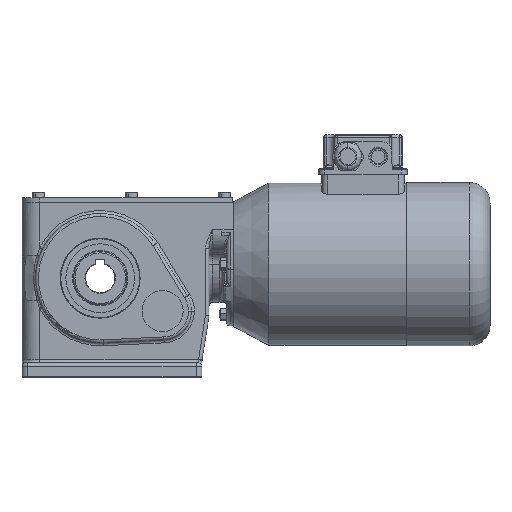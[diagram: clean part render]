
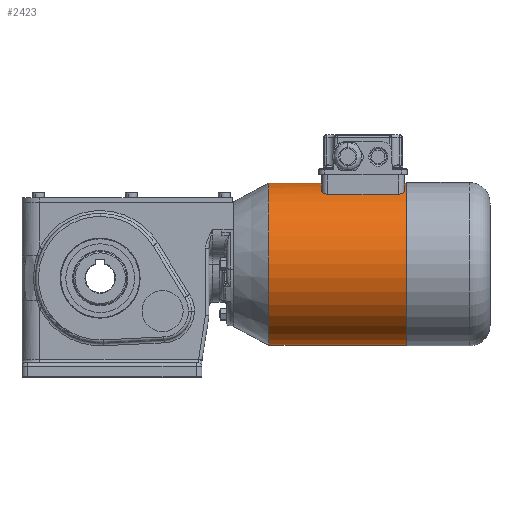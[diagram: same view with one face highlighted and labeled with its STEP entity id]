
A CAD part, top view. The second image highlights one B-rep face of the part: STEP entity #2423.
In plain terms, the highlighted cylindrical face has radius 69 mm (diameter 138 mm), a partial arc.
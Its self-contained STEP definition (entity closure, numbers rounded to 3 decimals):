
#5 = AXIS2_PLACEMENT_3D ( 'NONE', #32197, #26768, #32021 ) ;
#8 = CARTESIAN_POINT ( 'NONE',  ( 0., -35., -59.464 ) ) ;
#156 = VECTOR ( 'NONE', #26555, 1000. ) ;
#657 = EDGE_CURVE ( 'NONE', #6835, #13771, #28939, .T. ) ;
#1021 = CIRCLE ( 'NONE', #15489, 69. ) ;
#1559 = CARTESIAN_POINT ( 'NONE',  ( 74.592, -33.673, -60.226 ) ) ;
#1884 = CARTESIAN_POINT ( 'NONE',  ( 73.918, -32.96, -60.621 ) ) ;
#2423 = ADVANCED_FACE ( 'NONE', ( #9245 ), #9080, .T. ) ;
#2482 = VECTOR ( 'NONE', #25142, 1000. ) ;
#2698 = VERTEX_POINT ( 'NONE', #28377 ) ;
#2816 = CARTESIAN_POINT ( 'NONE',  ( 78., -35., -59.464 ) ) ;
#3409 = ORIENTED_EDGE ( 'NONE', *, *, #20970, .T. ) ;
#4070 = CARTESIAN_POINT ( 'NONE',  ( 78., -35., -59.464 ) ) ;
#4138 = CARTESIAN_POINT ( 'NONE',  ( 73., 0., 0. ) ) ;
#4510 = CARTESIAN_POINT ( 'NONE',  ( 0., 0., 69. ) ) ;
#4675 = DIRECTION ( 'NONE',  ( -1., 0., 0. ) ) ;
#5617 = AXIS2_PLACEMENT_3D ( 'NONE', #9871, #4675, #25308 ) ;
#5909 = CARTESIAN_POINT ( 'NONE',  ( 0., 0., -69. ) ) ;
#6417 = CARTESIAN_POINT ( 'NONE',  ( 75.824, -34.505, -59.753 ) ) ;
#6588 = CARTESIAN_POINT ( 'NONE',  ( 76.619, -34.818, -59.571 ) ) ;
#6674 = ORIENTED_EDGE ( 'NONE', *, *, #22637, .F. ) ;
#6732 = CARTESIAN_POINT ( 'NONE',  ( 142.853, -31.245, -61.521 ) ) ;
#6760 = CARTESIAN_POINT ( 'NONE',  ( 75.38, -34.262, -59.893 ) ) ;
#6835 = VERTEX_POINT ( 'NONE', #23668 ) ;
#7048 = CARTESIAN_POINT ( 'NONE',  ( 142.97, -30.628, -61.831 ) ) ;
#7070 = VERTEX_POINT ( 'NONE', #2816 ) ;
#7203 = ORIENTED_EDGE ( 'NONE', *, *, #31619, .F. ) ;
#7231 = DIRECTION ( 'NONE',  ( 1., 0., 0. ) ) ;
#7690 = AXIS2_PLACEMENT_3D ( 'NONE', #4138, #19106, #22097 ) ;
#7735 = VERTEX_POINT ( 'NONE', #29484 ) ;
#7864 = VERTEX_POINT ( 'NONE', #15629 ) ;
#8909 = CARTESIAN_POINT ( 'NONE',  ( 139.375, -34.819, -59.57 ) ) ;
#9080 = CYLINDRICAL_SURFACE ( 'NONE', #24358, 69. ) ;
#9245 = FACE_OUTER_BOUND ( 'NONE', #18223, .T. ) ;
#9402 = CARTESIAN_POINT ( 'NONE',  ( 138.7, -34.963, -59.486 ) ) ;
#9871 = CARTESIAN_POINT ( 'NONE',  ( 71., 0., 0. ) ) ;
#10466 = ORIENTED_EDGE ( 'NONE', *, *, #29811, .T. ) ;
#11953 = CARTESIAN_POINT ( 'NONE',  ( 77.646, -35., -59.464 ) ) ;
#12064 = LINE ( 'NONE', #4510, #2482 ) ;
#12977 = VERTEX_POINT ( 'NONE', #13854 ) ;
#13570 = CARTESIAN_POINT ( 'NONE',  ( 71., 0., -69. ) ) ;
#13771 = VERTEX_POINT ( 'NONE', #13570 ) ;
#13854 = CARTESIAN_POINT ( 'NONE',  ( 73., -30., -62.137 ) ) ;
#14152 = CARTESIAN_POINT ( 'NONE',  ( 73., -30.634, -61.831 ) ) ;
#14290 = CARTESIAN_POINT ( 'NONE',  ( 141.16, -33.889, -60.105 ) ) ;
#14464 = CARTESIAN_POINT ( 'NONE',  ( 141.41, -33.671, -60.227 ) ) ;
#14495 = CARTESIAN_POINT ( 'NONE',  ( 75.24, -34.172, -59.944 ) ) ;
#15117 = EDGE_CURVE ( 'NONE', #17424, #7735, #15662, .T. ) ;
#15489 = AXIS2_PLACEMENT_3D ( 'NONE', #19041, #15851, #29277 ) ;
#15629 = CARTESIAN_POINT ( 'NONE',  ( 188., 0., 69. ) ) ;
#15662 = B_SPLINE_CURVE_WITH_KNOTS ( 'NONE', 3,
 ( #21673, #22002, #9402, #8909, #21832, #29415, #30071, #14290, #14464, #29746, #19673, #17156, #19511, #26857, #6732, #7048, #16989, #27367 ),
 .UNSPECIFIED., .F., .F.,
 ( 4, 2, 2, 2, 2, 2, 2, 2, 4 ),
 ( 0.025, 0.026, 0.027, 0.028, 0.029, 0.03, 0.031, 0.032, 0.033 ),
 .UNSPECIFIED. ) ;
#15851 = DIRECTION ( 'NONE',  ( 1., 0., 0. ) ) ;
#16093 = VERTEX_POINT ( 'NONE', #22374 ) ;
#16884 = CIRCLE ( 'NONE', #5617, 69. ) ;
#16989 = CARTESIAN_POINT ( 'NONE',  ( 143., -30.316, -61.985 ) ) ;
#17156 = CARTESIAN_POINT ( 'NONE',  ( 142.393, -32.41, -60.916 ) ) ;
#17353 = CARTESIAN_POINT ( 'NONE',  ( 73., -30., -62.137 ) ) ;
#17424 = VERTEX_POINT ( 'NONE', #26137 ) ;
#17536 = EDGE_CURVE ( 'NONE', #6835, #12977, #31312, .T. ) ;
#17893 = ORIENTED_EDGE ( 'NONE', *, *, #29003, .T. ) ;
#18223 = EDGE_LOOP ( 'NONE', ( #7203, #10466, #31147, #6674, #31752, #22628, #32800, #3409, #22748, #17893 ) ) ;
#19041 = CARTESIAN_POINT ( 'NONE',  ( 143., 0., 0. ) ) ;
#19106 = DIRECTION ( 'NONE',  ( -1., 0., 0. ) ) ;
#19201 = CARTESIAN_POINT ( 'NONE',  ( 76.294, -34.712, -59.633 ) ) ;
#19511 = CARTESIAN_POINT ( 'NONE',  ( 142.535, -32.129, -61.064 ) ) ;
#19673 = CARTESIAN_POINT ( 'NONE',  ( 142.05, -32.949, -60.626 ) ) ;
#19678 = DIRECTION ( 'NONE',  ( -1., 0., 0. ) ) ;
#20014 = LINE ( 'NONE', #8, #30911 ) ;
#20087 = CARTESIAN_POINT ( 'NONE',  ( 188., 0., -69. ) ) ;
#20970 = EDGE_CURVE ( 'NONE', #7070, #17424, #20014, .T. ) ;
#21376 = EDGE_CURVE ( 'NONE', #7864, #16093, #12064, .T. ) ;
#21673 = CARTESIAN_POINT ( 'NONE',  ( 138., -35., -59.464 ) ) ;
#21832 = CARTESIAN_POINT ( 'NONE',  ( 139.703, -34.713, -59.632 ) ) ;
#22002 = CARTESIAN_POINT ( 'NONE',  ( 138.347, -35., -59.464 ) ) ;
#22033 = CARTESIAN_POINT ( 'NONE',  ( 73.117, -31.246, -61.523 ) ) ;
#22097 = DIRECTION ( 'NONE',  ( 0., -1., 0. ) ) ;
#22374 = CARTESIAN_POINT ( 'NONE',  ( 71., 0., 69. ) ) ;
#22628 = ORIENTED_EDGE ( 'NONE', *, *, #17536, .T. ) ;
#22637 = EDGE_CURVE ( 'NONE', #13771, #16093, #16884, .T. ) ;
#22748 = ORIENTED_EDGE ( 'NONE', *, *, #15117, .T. ) ;
#23668 = CARTESIAN_POINT ( 'NONE',  ( 73., 0., -69. ) ) ;
#24358 = AXIS2_PLACEMENT_3D ( 'NONE', #26539, #19678, #29750 ) ;
#24416 = VERTEX_POINT ( 'NONE', #20087 ) ;
#25142 = DIRECTION ( 'NONE',  ( -1., 0., 0. ) ) ;
#25205 = LINE ( 'NONE', #32806, #31656 ) ;
#25308 = DIRECTION ( 'NONE',  ( 0., 0., 1. ) ) ;
#25954 = B_SPLINE_CURVE_WITH_KNOTS ( 'NONE', 3,
 ( #17353, #14152, #22033, #32312, #1884, #1559, #29447, #14495, #6760, #26890, #6417, #19201, #6588, #27072, #11953, #4070 ),
 .UNSPECIFIED., .F., .F.,
 ( 4, 2, 2, 2, 2, 2, 2, 4 ),
 ( 0., 0.002, 0.004, 0.005, 0.006, 0.006, 0.007, 0.008 ),
 .UNSPECIFIED. ) ;
#26137 = CARTESIAN_POINT ( 'NONE',  ( 138., -35., -59.464 ) ) ;
#26539 = CARTESIAN_POINT ( 'NONE',  ( 0., 0., 0. ) ) ;
#26555 = DIRECTION ( 'NONE',  ( -1., 0., 0. ) ) ;
#26768 = DIRECTION ( 'NONE',  ( -1., 0., 0. ) ) ;
#26857 = CARTESIAN_POINT ( 'NONE',  ( 142.765, -31.548, -61.366 ) ) ;
#26890 = CARTESIAN_POINT ( 'NONE',  ( 75.671, -34.428, -59.798 ) ) ;
#27072 = CARTESIAN_POINT ( 'NONE',  ( 77.293, -34.962, -59.487 ) ) ;
#27349 = CIRCLE ( 'NONE', #5, 69. ) ;
#27367 = CARTESIAN_POINT ( 'NONE',  ( 143., -30., -62.137 ) ) ;
#28377 = CARTESIAN_POINT ( 'NONE',  ( 143., 0., -69. ) ) ;
#28939 = LINE ( 'NONE', #5909, #156 ) ;
#29003 = EDGE_CURVE ( 'NONE', #7735, #2698, #1021, .T. ) ;
#29166 = EDGE_CURVE ( 'NONE', #12977, #7070, #25954, .T. ) ;
#29277 = DIRECTION ( 'NONE',  ( 0., 0., -1. ) ) ;
#29415 = CARTESIAN_POINT ( 'NONE',  ( 140.329, -34.438, -59.792 ) ) ;
#29447 = CARTESIAN_POINT ( 'NONE',  ( 74.838, -33.887, -60.106 ) ) ;
#29484 = CARTESIAN_POINT ( 'NONE',  ( 143., -30., -62.137 ) ) ;
#29746 = CARTESIAN_POINT ( 'NONE',  ( 141.853, -33.202, -60.487 ) ) ;
#29750 = DIRECTION ( 'NONE',  ( 0., 0., 1. ) ) ;
#29811 = EDGE_CURVE ( 'NONE', #24416, #7864, #27349, .T. ) ;
#30071 = CARTESIAN_POINT ( 'NONE',  ( 140.619, -34.272, -59.887 ) ) ;
#30911 = VECTOR ( 'NONE', #7231, 1000. ) ;
#31147 = ORIENTED_EDGE ( 'NONE', *, *, #21376, .T. ) ;
#31312 = CIRCLE ( 'NONE', #7690, 69. ) ;
#31619 = EDGE_CURVE ( 'NONE', #24416, #2698, #25205, .T. ) ;
#31656 = VECTOR ( 'NONE', #32971, 1000. ) ;
#31752 = ORIENTED_EDGE ( 'NONE', *, *, #657, .F. ) ;
#32021 = DIRECTION ( 'NONE',  ( 0., 0., 1. ) ) ;
#32197 = CARTESIAN_POINT ( 'NONE',  ( 188., 0., 0. ) ) ;
#32312 = CARTESIAN_POINT ( 'NONE',  ( 73.582, -32.426, -60.91 ) ) ;
#32800 = ORIENTED_EDGE ( 'NONE', *, *, #29166, .T. ) ;
#32806 = CARTESIAN_POINT ( 'NONE',  ( 0., 0., -69. ) ) ;
#32971 = DIRECTION ( 'NONE',  ( -1., 0., 0. ) ) ;
